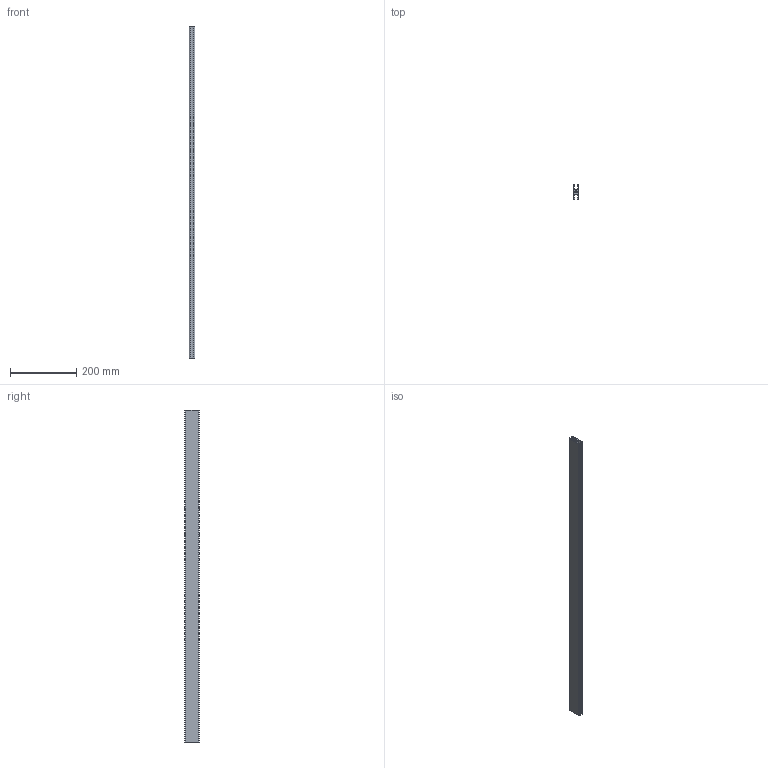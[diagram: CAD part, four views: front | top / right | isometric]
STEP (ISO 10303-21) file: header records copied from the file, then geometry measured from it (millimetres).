
FILE_DESCRIPTION (( 'STEP AP214' ), '1' );
FILE_NAME ('SA02002.step', '2024-12-03T16:28:36', ( '' ), ( '' ), 'SwSTEP 2.0', 'SolidWorks 2023', '' );
FILE_SCHEMA (( 'AUTOMOTIVE_DESIGN' ));
Length unit declared in the file: millimetre
Products named in the file (1): SA02002
Bounding box: 18 x 45 x 1000 mm (x, y, z)
Volume: 391632.8 mm3; surface area: 221139.6 mm2
Topology: 1 solids, 1 shells, 31 faces, 87 edges, 58 vertices
Faces by surface type: plane 20, cylinder 11
Full cylindrical faces by diameter (mm): 7.45 x1
Entity records: 1025 total; most frequent: CARTESIAN_POINT 176, ORIENTED_EDGE 172, DIRECTION 172, EDGE_CURVE 86, VECTOR 64, LINE 64, VERTEX_POINT 58, AXIS2_PLACEMENT_3D 54
